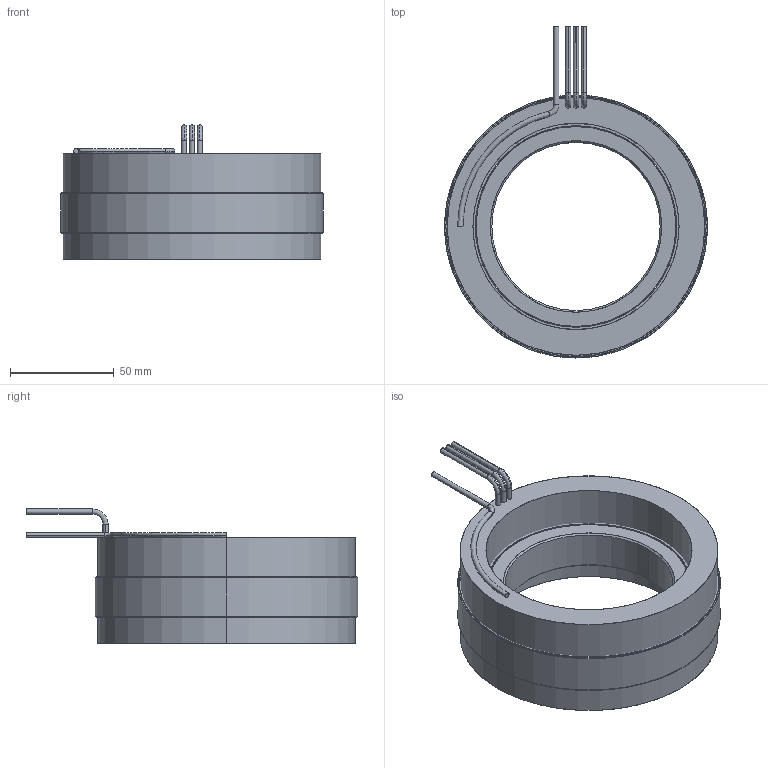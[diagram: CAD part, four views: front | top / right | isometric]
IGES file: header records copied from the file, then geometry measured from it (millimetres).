
Start section: SolidWorks IGES file using analytic representation for surfaces
Global section: file name: \\fs01.aveox.local\user documents\eng\My Documents\6100398-XX STATOR AND ROTOR SET, UT-5000-24P4, SENSORLESS TABULATED\6100398-01.IGS; native system: SolidWorks 2016; preprocessor: SolidWorks 2016; author: eng; date: 201226.190526; units: inch
Bounding box: 127 x 160.29 x 64.77 mm (x, y, z)
Surface area: 126411.9 mm2 (no closed solid volume)
Topology: 0 solids, 0 shells, 75 faces, 2236 edges, 2236 vertices
Faces by surface type: revolution 46, bspline 29
